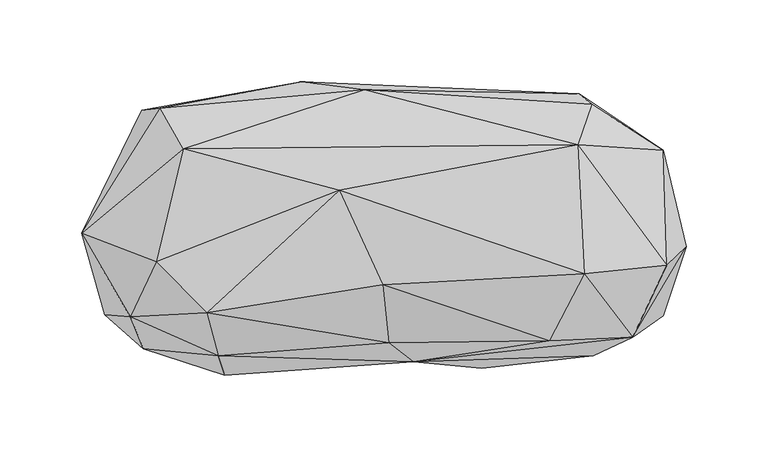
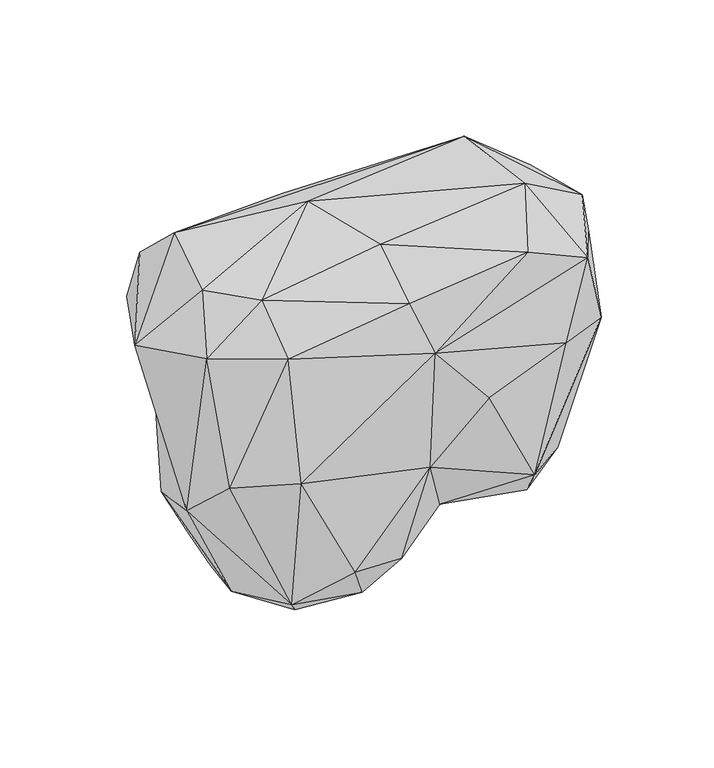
"""IFC4 building model written with IfcOpenShell, lengths in millimetres: geographic element geometry, Enscape AssetDefinition - Creeper Plant 031 Bower Vine : Enscape AssetDefinition - Creeper Plant 031 Bower Vine 3."""

import ifcopenshell
import ifcopenshell.guid

model = None  # the IFC model being written
_history = None  # IfcOwnerHistory: only IFC2X3 demands one
_inside = {}  # id of a spatial element -> (the spatial element, [elements in it])
_under = {}  # id of a project, library or spatial element -> (it, [spatial elements below it])
_declared = {}  # id of a project -> (the project, [libraries it declares])
_typed = {}  # id of a type object -> (the type object, [elements of that type])
_made_of = {}  # id of a material, layer set ... -> (it, [elements and type objects made of it])


def new_model(schema):
    """Start an empty IFC model of exactly this schema.

    Asked for "IFC4X3", IfcOpenShell would pick the latest addendum, in which some entities
    have other attributes; the version numbers below select the first issue.
    IFC2X3 requires an IfcOwnerHistory on every rooted entity: one is made here for all.
    """
    global model, _history
    if schema == "IFC4X3":
        model = ifcopenshell.file(schema_version=(4, 3, 0, 0))
    else:
        model = ifcopenshell.file(schema=schema)
    _inside.clear()
    _under.clear()
    _declared.clear()
    _typed.clear()
    _made_of.clear()
    _history = None
    if model.schema == "IFC2X3":
        org = make("IfcOrganization", Name="unknown")
        user = make(
            "IfcPersonAndOrganization",
            ThePerson=make("IfcPerson", FamilyName="unknown"),
            TheOrganization=org,
        )
        app = make(
            "IfcApplication",
            ApplicationDeveloper=org,
            Version="unknown",
            ApplicationFullName="unknown",
            ApplicationIdentifier="unknown",
        )
        _history = make(
            "IfcOwnerHistory",
            OwningUser=user,
            OwningApplication=app,
            ChangeAction="ADDED",
            CreationDate=0,
        )
    return model


def make(cls, **values):
    """One entity of the class cls with the attributes given. An attribute that is None is left unset."""
    return model.create_entity(
        cls, **{name: value for name, value in values.items() if value is not None}
    )


def rooted(cls, **values):
    """An entity with a GlobalId (a new one), such as an element, a storey or a relation."""
    return make(cls, GlobalId=ifcopenshell.guid.new(), OwnerHistory=_history, **values)


def si_unit(unit_type, name, prefix=None):
    """IfcSIUnit, for example si_unit("LENGTHUNIT", "METRE", prefix="MILLI")."""
    return make("IfcSIUnit", UnitType=unit_type, Prefix=prefix, Name=name)


def assignment(units):
    """IfcUnitAssignment: the units of a project."""
    return None if units is None else make("IfcUnitAssignment", Units=units)


def point(xyz):
    """IfcCartesianPoint."""
    return None if xyz is None else make("IfcCartesianPoint", Coordinates=xyz)


def direction(xyz):
    """IfcDirection."""
    return None if xyz is None else make("IfcDirection", DirectionRatios=xyz)


def frame(location, z_axis=None, x_axis=None):
    """IfcAxis2Placement3D, a coordinate frame: its origin and axes. An axis left out is left unset."""
    return make(
        "IfcAxis2Placement3D",
        Location=point(location),
        Axis=direction(z_axis),
        RefDirection=direction(x_axis),
    )


def origin():
    """The frame at (0, 0, 0) with its axes left unset."""
    return frame((0.0, 0.0, 0.0))


def place(relative_to, where):
    """IfcLocalPlacement: puts the frame where relative to a parent placement (None: the world)."""
    return make(
        "IfcLocalPlacement", PlacementRelTo=relative_to, RelativePlacement=where
    )


def context(
    kind, dimensions, precision=None, world=None, true_north=None, identifier=None
):
    """IfcGeometricRepresentationContext, for example the 3D "Model" context."""
    return make(
        "IfcGeometricRepresentationContext",
        ContextIdentifier=identifier,
        ContextType=kind,
        CoordinateSpaceDimension=dimensions,
        Precision=precision,
        WorldCoordinateSystem=world,
        TrueNorth=true_north,
    )


def project(units=None, contexts=None):
    """IfcProject with its units and contexts."""
    return rooted(
        "IfcProject",
        Name="project",
        RepresentationContexts=contexts,
        UnitsInContext=assignment(units),
    )


def spatial(cls, under=None, at=None, **own):
    """A site, building, storey or space (cls), placed at a placement, below another one or the project."""
    s = rooted(cls, ObjectPlacement=at, **own)
    if under is not None:
        _under.setdefault(under.id(), (under, []))[1].append(s)
    return s


def point_list(points):
    """IfcCartesianPointList2D or 3D."""
    cls = (
        "IfcCartesianPointList2D" if len(points[0]) == 2 else "IfcCartesianPointList3D"
    )
    return make(cls, CoordList=points)


def triangles(points, corners, closed=None, point_numbers=None):
    """IfcTriangulatedFaceSet: each triangle names its three corners, points numbered from 1."""
    return make(
        "IfcTriangulatedFaceSet",
        Coordinates=point_list(points),
        Closed=closed,
        CoordIndex=corners,
        PnIndex=point_numbers,
    )


def shape(context_of_items, identifier, shape_type, items):
    """IfcShapeRepresentation: the items that make up one representation, for example the "Body"."""
    return make(
        "IfcShapeRepresentation",
        ContextOfItems=context_of_items,
        RepresentationIdentifier=identifier,
        RepresentationType=shape_type,
        Items=items,
    )


def source(mapping_origin, context_of_items, identifier, shape_type, items):
    """IfcRepresentationMap: a shape defined once, which mapped items show again and again."""
    return make(
        "IfcRepresentationMap",
        MappingOrigin=mapping_origin,
        MappedRepresentation=shape(context_of_items, identifier, shape_type, items),
    )


def transform(
    local_origin,
    x_axis=None,
    y_axis=None,
    z_axis=None,
    scale=None,
    scale2=None,
    scale3=None,
    uniform=True,
):
    """IfcCartesianTransformationOperator3D, or its non-uniform kind. x_axis, y_axis, z_axis: its Axis1, 2, 3."""
    if uniform:
        return make(
            "IfcCartesianTransformationOperator3D",
            Axis1=direction(x_axis),
            Axis2=direction(y_axis),
            LocalOrigin=point(local_origin),
            Scale=scale,
            Axis3=direction(z_axis),
        )
    return make(
        "IfcCartesianTransformationOperator3DnonUniform",
        Axis1=direction(x_axis),
        Axis2=direction(y_axis),
        LocalOrigin=point(local_origin),
        Scale=scale,
        Axis3=direction(z_axis),
        Scale2=scale2,
        Scale3=scale3,
    )


def mapped(mapping_source, mapping_target):
    """IfcMappedItem: shows the shape of a source again, moved by a transform."""
    return make(
        "IfcMappedItem", MappingSource=mapping_source, MappingTarget=mapping_target
    )


def made_of(thing, what):
    """Note that an element or type object is made of a material, layer set ...; save() writes the relation."""
    if what is not None:
        _made_of.setdefault(what.id(), (what, []))[1].append(thing)
    return thing


def element(
    cls,
    number,
    at=None,
    inside=None,
    cuts=None,
    type_object=None,
    material=None,
    context=None,
    identifier="Body",
    shape_type=None,
    held_by="IfcProductDefinitionShape",
    body=None,
    shapes=None,
    **own,
):
    """One element of the class cls, such as IfcWall. Its Tag is "e" and its number.

    at: its placement. inside: the storey or other place that contains it. cuts: it is an
    opening in that element (IfcRelVoidsElement). A single representation is given by context,
    identifier, shape_type and body (its items); several are given by shapes. held_by: the class
    of the entity that holds the representations. save() writes the other relations.
    """
    e = rooted(cls, Tag="e%d" % number, ObjectPlacement=at, **own)
    if body is not None:
        shapes = [shape(context, identifier, shape_type, body)]
    if shapes is not None:
        e.Representation = make(held_by, Representations=shapes)
    if inside is not None:
        _inside.setdefault(inside.id(), (inside, []))[1].append(e)
    if cuts is not None:
        rooted(
            "IfcRelVoidsElement", RelatingBuildingElement=cuts, RelatedOpeningElement=e
        )
    if type_object is not None:
        _typed.setdefault(type_object.id(), (type_object, []))[1].append(e)
    return made_of(e, material)


def aggregate(whole, parts):
    """IfcRelAggregates: a whole, such as a stair, and the parts it consists of."""
    return rooted("IfcRelAggregates", RelatingObject=whole, RelatedObjects=parts)


def save(model, path):
    """Write the relations noted so far, then the file.

    IfcRelAggregates (storeys below a building ...), IfcRelContainedInSpatialStructure (elements
    in a storey), IfcRelDefinesByType, IfcRelAssociatesMaterial and IfcRelDeclares: one each for
    every whole, place, type object, material and project.
    """
    for whole, parts in _under.values():
        aggregate(whole, parts)
    for where, things in _inside.values():
        rooted(
            "IfcRelContainedInSpatialStructure",
            RelatedElements=things,
            RelatingStructure=where,
        )
    for kind, things in _typed.values():
        rooted("IfcRelDefinesByType", RelatedObjects=things, RelatingType=kind)
    for what, things in _made_of.values():
        rooted("IfcRelAssociatesMaterial", RelatedObjects=things, RelatingMaterial=what)
    for by, libraries in _declared.values():
        rooted("IfcRelDeclares", RelatingContext=by, RelatedDefinitions=libraries)
    model.write(path)


def geographic_element_827b0157(model_context):
    return source(origin(), model_context, "Body", "Tessellation", [
        triangles([(-175.33263, 0.0, -23.486943), (167.7584194, 36.7832017, 0.0), (-183.2679741, 0.0, 0.0), (-148.9698133, 72.6507526, 0.0), (-169.5537131, 16.7298053, 0.0), (-187.3716662, 8.1874914, 25.5874507), (-150.481358, 83.5100098, 9.6061553), (-130.3941575, 83.9760515, 0.0), (-74.3136553, 93.5746208, 0.0), (116.7364338, 88.9919336, 0.0), (-52.3136219, 101.205078, 12.4915091), (28.1739048, 92.5875626, 0.0), (117.6283942, 93.8514117, 11.4301969), (125.1997617, 87.2487715, 42.3829735), (133.3875704, 75.286184, 0.0), (169.0987264, 59.2919341, 27.3830556), (171.3325653, -11.2832752, 43.0961022), (-14.091534, 96.2138402, 44.0787366), (116.5595005, 62.582976, 68.8819738), (-29.4238467, 34.4675273, 80.0000042), (150.35434, -55.4732264, 22.0866061), (183.2679741, 0.0, 0.0), (120.6543541, -16.4359619, 74.1433532), (99.2922405, -57.7004433, 46.4244283), (-124.9498496, 59.9017352, 70.642504), (-2.8164742, -23.4427074, 68.0908066), (0.9481982, -58.9465837, 36.4217435), (-103.7147449, -66.7647202, 29.4298465), (-110.5625737, -40.3238604, 67.3176525), (-141.7567543, -9.150539, 68.2538462), (-157.5067559, -42.951389, 34.1411414), (-149.5281095, -62.5456963, -69.8396506), (15.8523834, -70.3407646, -5.0961313), (-96.5392836, -59.3892483, -192.0589528), (-173.2889866, -41.5074501, -94.053298), (-173.6141121, -5.6222058, -99.0527475), (-50.0538715, -69.7514974, -173.698809), (-70.7325557, -18.5130892, -230.3714035), (-99.7431215, -78.6012433, -73.5878956), (-3.1526563, -55.1740123, -186.7002683), (14.7392541, -65.0221939, -107.633937), (37.7389846, -38.7481617, -163.7928002), (57.903288, -74.5575766, -56.3351696), (102.1387329, -51.4463102, -165.8872945), (137.3317065, -34.696599, -151.2652673), (98.6021846, -69.4886182, -140.5522948), (126.0383278, -66.8332798, -36.4530234), (153.4109666, -8.4032928, -113.634025), (169.1189286, -42.3298926, -44.3049628), (102.2189969, -3.6752557, -177.5111853), (35.9857191, 0.0, -158.2615972), (140.91123, 0.0, -118.8104078), (160.8944851, 0.0, -68.2677489), (101.6828105, 0.0, -172.9679669), (23.6139588, -20.6597264, -187.1362882), (8.393182, 0.0, -186.1773351), (37.7702622, -2.6117317, -164.7770061), (-19.9162693, -27.1836832, -227.4588996), (-7.9773775, 0.0, -199.7314314), (-45.3340515, 0.0, -220.8976358), (-54.0071686, 0.0, -221.9140709), (-119.3146739, 0.0, -190.8763215), (-129.4503834, 0.0, -182.7163181), (-146.5631379, 0.0, -149.9097995), (-135.0349898, -39.402832, -179.0372731), (-168.7043827, 0.0, -89.3040966), (-139.0609614, 84.8386261, 43.4724055)], [[18, 67, 25], [67, 6, 25], [1, 66, 36], [36, 66, 64], [64, 66, 1], [36, 63, 65], [36, 64, 63], [1, 63, 64], [1, 62, 63], [38, 63, 62], [38, 65, 63], [62, 61, 38], [1, 61, 62], [1, 60, 61], [61, 58, 38], [61, 60, 58], [60, 59, 58], [1, 59, 60], [1, 56, 59], [59, 55, 58], [59, 56, 55], [58, 55, 40], [40, 55, 42], [56, 57, 55], [57, 42, 55], [56, 51, 57], [1, 51, 56], [1, 54, 51], [1, 52, 54], [1, 53, 52], [1, 22, 53], [52, 53, 48], [22, 48, 53], [51, 50, 57], [51, 54, 50], [50, 42, 57], [50, 52, 48], [50, 54, 52], [50, 44, 42], [50, 45, 44], [50, 48, 45], [48, 22, 49], [49, 45, 48], [22, 21, 49], [49, 21, 47], [49, 47, 46], [44, 45, 46], [42, 44, 46], [49, 46, 45], [46, 47, 43], [47, 21, 33], [47, 33, 43], [41, 43, 33], [42, 46, 41], [43, 41, 46], [41, 40, 42], [40, 37, 58], [40, 41, 37], [41, 39, 37], [33, 39, 41], [58, 34, 38], [37, 39, 34], [37, 34, 58], [38, 34, 65], [1, 36, 35], [36, 65, 35], [65, 34, 35], [39, 32, 34], [34, 32, 35], [39, 33, 28], [28, 32, 39], [32, 28, 31], [31, 35, 32], [6, 35, 31], [30, 6, 31], [6, 30, 25], [29, 30, 31], [29, 31, 28], [33, 27, 28], [28, 27, 29], [33, 24, 27], [33, 21, 24], [26, 29, 27], [24, 26, 27], [29, 20, 30], [20, 25, 30], [20, 29, 26], [26, 23, 20], [24, 23, 26], [23, 24, 21], [21, 17, 23], [21, 22, 17], [23, 19, 20], [19, 25, 20], [18, 25, 19], [17, 19, 23], [19, 14, 18], [22, 16, 17], [17, 16, 19], [14, 19, 16], [16, 22, 2], [2, 15, 16], [18, 14, 13], [14, 16, 13], [13, 16, 15], [13, 15, 10], [10, 15, 2], [2, 12, 10], [2, 9, 12], [11, 12, 9], [11, 10, 12], [11, 13, 10], [18, 11, 67], [18, 13, 11], [6, 67, 7], [11, 7, 67], [11, 8, 7], [11, 9, 8], [2, 8, 9], [4, 6, 7], [7, 8, 4], [2, 4, 8], [4, 5, 6], [2, 5, 4], [5, 3, 6], [3, 35, 6], [3, 1, 35], [2, 3, 5], [2, 22, 3], [1, 3, 22]]),
    ])


if __name__ == "__main__":
    model = new_model("IFC4")
    model_context = context("Model", 3, world=origin())
    ifc_project = project(units=[si_unit("LENGTHUNIT", "METRE", prefix="MILLI")], contexts=[model_context])
    site = spatial("IfcSite", under=ifc_project)
    building = spatial("IfcBuilding", under=site)
    placement = place(None, origin())
    geographic_element_shape = geographic_element_827b0157(model_context)
    element("IfcGeographicElement", 1, ObjectType="Enscape AssetDefinition - Creeper Plant 031 Bower Vine : Enscape AssetDefinition - Creeper Plant 031 Bower Vine 3", at=placement, inside=building, context=model_context, shape_type="MappedRepresentation", body=[
        mapped(geographic_element_shape, transform((0.0, 0.0, 0.0), x_axis=(1.0, 0.0, 0.0), y_axis=(0.0, 1.0, 0.0), z_axis=(0.0, 0.0, 1.0))),
    ])
    save(model, "model.ifc")
